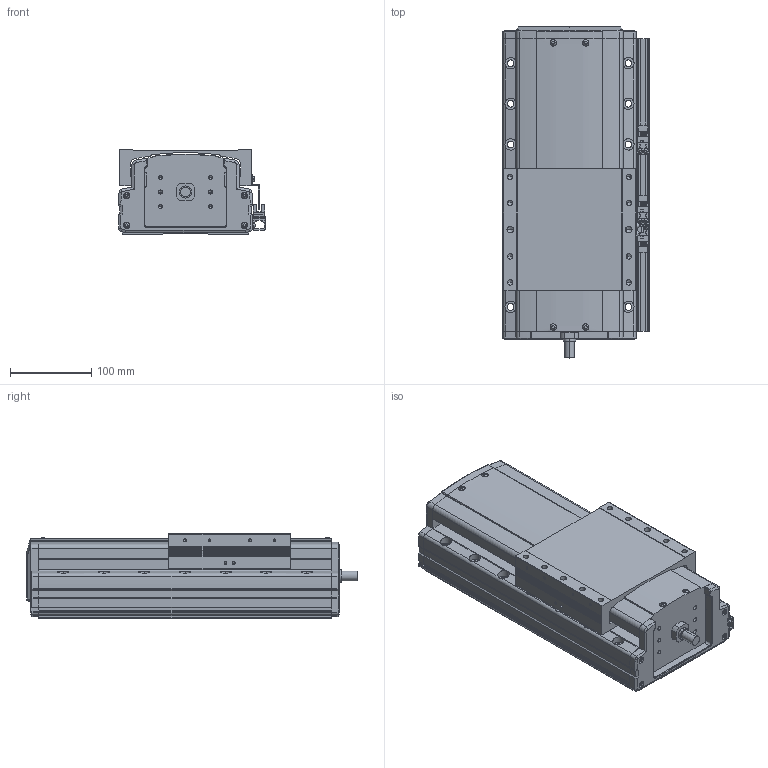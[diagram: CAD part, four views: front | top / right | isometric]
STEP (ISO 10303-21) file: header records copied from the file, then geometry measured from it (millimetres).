
FILE_DESCRIPTION(('STEP AP214'),'1');
FILE_NAME('Z:/Web/3D/PSA165/STP/PSA165-100 (3D)/PSA165ㅁㅁ-100+3SR.stp','2014-06-23T06:16:18',(' '),(' '),'Spatial InterOp 3D',' ',' ');
FILE_SCHEMA(('automotive_design'));
Length unit declared in the file: millimetre
Products named in the file (36): 스크루 : Round - M4.0 x 12.0; RRCV-PA160; BASE; 스크루 : Round - M4.0 x 10.0; RN15; Screw 20; SLIDE; FRCV; M3.0 x 6.0; SRL-16x17-360L; SGD-SAN150; EE-SX674; SBK-SX674-352; 스크루 : Round - M3.0 x 6.0; BHCS M4.0 x 10.0
Bounding box: 181 x 408.8 x 104 mm (x, y, z)
Volume: 5470135.4 mm3; surface area: 494063.7 mm2
Topology: 36 solids, 36 shells, 2296 faces, 6165 edges, 3979 vertices
Faces by surface type: plane 1383, cylinder 647, cone 173, sphere 52, bspline 25, torus 16
Entity records: 93310 total; most frequent: CARTESIAN_POINT 16126, DIRECTION 12205, ORIENTED_EDGE 12118, EDGE_CURVE 6059, LINE 4221, VECTOR 4221, AXIS2_PLACEMENT_3D 3992, VERTEX_POINT 3979
